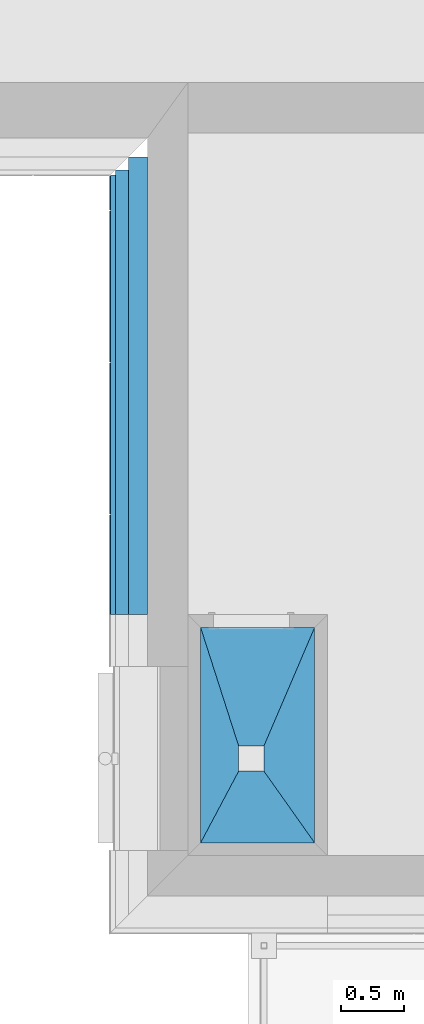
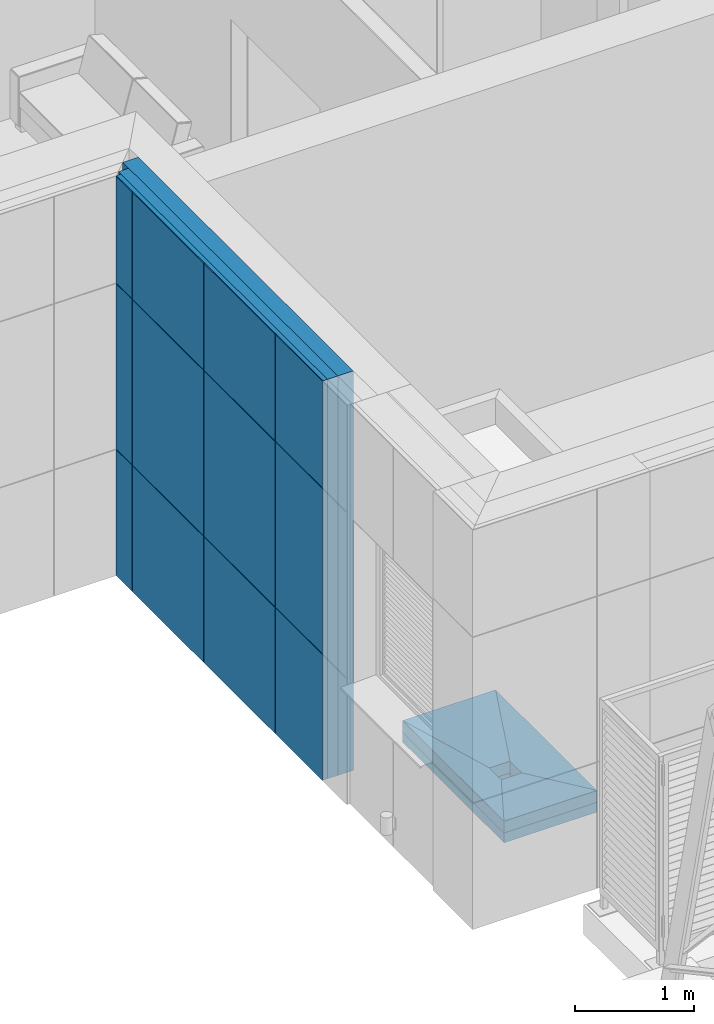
# One storey, part 113 of 418: 16 building element parts, 5 openings, 5 elements without a shape of their own.
"""IFC2X3 building model written with IfcOpenShell, lengths in millimetres."""

from ifc_helpers import new_model, entity, si_unit, converted_unit, derived_unit, money_unit, direction, frame, origin_with_axes, place, context, subcontext, project, spatial, polyline, outline, extrude, boolean, faceted_brep, material, type_object, element, aggregate, save


model = new_model("IFC2X3")

# Units and contexts
model_context = context("Model", 3, precision=0.01, world=origin_with_axes(), true_north=direction((0.0, 1.0)))
body_context = subcontext(model_context, "Body", "Model", "MODEL_VIEW")
ifc_project = project(units=[si_unit("LENGTHUNIT", "METRE", prefix="MILLI"), si_unit("AREAUNIT", "SQUARE_METRE"), si_unit("VOLUMEUNIT", "CUBIC_METRE"), converted_unit("PLANEANGLEUNIT", "DEGREE", entity("IfcPlaneAngleMeasure", 0.0174532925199), si_unit("PLANEANGLEUNIT", "RADIAN"), dimensions=[0, 0, 0, 0, 0, 0, 0]), si_unit("SOLIDANGLEUNIT", "STERADIAN"), money_unit("EUR"), converted_unit("TIMEUNIT", "Year", entity("IfcTimeMeasure", 31556926.0), si_unit("TIMEUNIT", "SECOND"), dimensions=[0, 0, 1, 0, 0, 0, 0]), si_unit("MASSUNIT", "GRAM", prefix="KILO"), si_unit("THERMODYNAMICTEMPERATUREUNIT", "DEGREE_CELSIUS"), si_unit("LUMINOUSINTENSITYUNIT", "LUMEN"), si_unit("ENERGYUNIT", "JOULE", prefix="MEGA"), derived_unit("THERMALCONDUCTANCEUNIT", [(si_unit("POWERUNIT", "WATT"), 1), (si_unit("LENGTHUNIT", "METRE"), -1), (si_unit("THERMODYNAMICTEMPERATUREUNIT", "KELVIN"), -1)]), derived_unit("SPECIFICHEATCAPACITYUNIT", [(si_unit("ENERGYUNIT", "JOULE"), 1), (si_unit("MASSUNIT", "GRAM", prefix="KILO"), -1), (si_unit("THERMODYNAMICTEMPERATUREUNIT", "KELVIN"), -1)]), derived_unit("MASSDENSITYUNIT", [(si_unit("MASSUNIT", "GRAM", prefix="KILO"), 1), (si_unit("VOLUMEUNIT", "CUBIC_METRE"), -1)])], contexts=[model_context])

# Site, building, storey
site_placement = place(None, origin_with_axes())
site = spatial("IfcSite", under=ifc_project, at=site_placement, Name="Paldiski mnt 245/1, Tallinn, Harjumaa", CompositionType="COMPLEX")
building_placement = place(site_placement, origin_with_axes())
building = spatial("IfcBuilding", under=site, at=building_placement, Name="RKAS Hoone üldnimetus (kasutust iseloomustav) -> IFC Project Manager -> SOLIBRI", CompositionType="ELEMENT")
storey_placement = place(building_placement, origin_with_axes())
storey = spatial("IfcBuildingStorey", under=building, at=storey_placement, Name="Esimene korrus", CompositionType="ELEMENT", Elevation=0.0)

# Wall, openings, building element parts
wall_type = type_object("IfcWallType", Name="VS-03D_uued_kihid 300", PredefinedType="NOTDEFINED")
wall_placement = place(storey_placement, frame((-56710.0, 2029.99992126, 0.0), z_axis=(0.0, 0.0, 1.0), x_axis=(0.0, 1.0, 0.0)))
wall = element("IfcWall", 1, at=wall_placement, inside=storey, type_object=wall_type, Name="VS-03")
opening_1_placement = place(wall_placement, frame((789.999960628, 0.0, 0.0), z_axis=(0.0, 0.0, 1.0), x_axis=(1.0, 0.0, 0.0)))
element("IfcOpeningElement", 2, at=opening_1_placement, cuts=wall, Name="Cembrit fassaadiplaadi vuuk", context=body_context, shape_type="SweptSolid", body=[
    extrude(outline(polyline([(-4.0, 0.0), (4.0, 0.0), (4.0, 4090.0), (-4.0, 4090.0), (-4.0, 0.0)])), frame((0.0, 292.0, 0.0), z_axis=(0.0, 1.0, 0.0), x_axis=(-1.0, 0.0, 0.0)), (0.0, 0.0, 1.0), 308.0),
])
opening_2_placement = place(wall_placement, frame((1989.99996063, 0.0, 0.0), z_axis=(0.0, 0.0, 1.0), x_axis=(1.0, 0.0, 0.0)))
element("IfcOpeningElement", 3, at=opening_2_placement, cuts=wall, Name="Cembrit fassaadiplaadi vuuk", context=body_context, shape_type="SweptSolid", body=[
    extrude(outline(polyline([(-4.0, 0.0), (4.0, 0.0), (4.0, 4090.0), (-4.0, 4090.0), (-4.0, 0.0)])), frame((0.0, 292.0, 0.0), z_axis=(0.0, 1.0, 0.0), x_axis=(-1.0, 0.0, 0.0)), (0.0, 0.0, 1.0), 308.0),
])
opening_3_placement = place(wall_placement, frame((3189.99996063, 0.0, 0.0), z_axis=(0.0, 0.0, 1.0), x_axis=(1.0, 0.0, 0.0)))
element("IfcOpeningElement", 4, at=opening_3_placement, cuts=wall, Name="Cembrit fassaadiplaadi vuuk", context=body_context, shape_type="SweptSolid", body=[
    extrude(outline(polyline([(-4.0, 0.0), (4.0, 0.0), (4.0, 4090.0), (-4.0, 4090.0), (-4.0, 0.0)])), frame((0.0, 292.0, 0.0), z_axis=(0.0, 1.0, 0.0), x_axis=(-1.0, 0.0, 0.0)), (0.0, 0.0, 1.0), 308.0),
])
opening_4_placement = place(wall_placement, frame((474.0000696, 0.0, 1290.0), z_axis=(0.0, 0.0, 1.0), x_axis=(1.0, 0.0, 0.0)))
element("IfcOpeningElement", 5, at=opening_4_placement, cuts=wall, Name="Cembrit fassaadiplaadi vuuk", context=body_context, shape_type="SweptSolid", body=[
    extrude(outline(polyline([(-2993.99999086, 0.0), (2993.99999086, 0.0), (2993.99999086, 8.0), (-2993.99999086, 8.0), (-2993.99999086, 0.0)])), frame((0.0, 292.0, 0.0), z_axis=(0.0, 1.0, 0.0), x_axis=(-1.0, 0.0, 0.0)), (0.0, 0.0, 1.0), 308.0),
])
opening_5_placement = place(wall_placement, frame((474.0000696, 0.0, 2990.0), z_axis=(0.0, 0.0, 1.0), x_axis=(1.0, 0.0, 0.0)))
element("IfcOpeningElement", 6, at=opening_5_placement, cuts=wall, Name="Cembrit fassaadiplaadi vuuk", context=body_context, shape_type="SweptSolid", body=[
    extrude(outline(polyline([(-2993.99999086, 0.0), (2993.99999086, 0.0), (2993.99999086, 8.0), (-2993.99999086, 8.0), (-2993.99999086, 0.0)])), frame((0.0, 292.0, 0.0), z_axis=(0.0, 1.0, 0.0), x_axis=(-1.0, 0.0, 0.0)), (0.0, 0.0, 1.0), 308.0),
])
ifc_material_1 = material(Name="Cembrit_C020")
building_element_part_1_placement = place(wall_placement, origin_with_axes())
building_element_part_1 = element("IfcBuildingElementPart", 7, at=building_element_part_1_placement, material=ifc_material_1, Name="Cembrit_C020", context=body_context, shape_type="CSG", body=[
    boolean("DIFFERENCE", boolean("DIFFERENCE", boolean("DIFFERENCE", boolean("DIFFERENCE", extrude(outline(polyline([(0.0, 292.0), (3760.00007874, 292.0), (3760.00007874, 300.0), (0.0, 300.0), (0.0, 292.0)])), origin_with_axes(), (0.0, 0.0, 1.0), 4090.0), faceted_brep([(3460.00007874, 300.0, 4090.0), (3460.00007874, 292.0, 4090.0), (3760.00007874, 292.0, 4090.0), (3760.00007874, 300.0, 4090.0), (3460.00007874, 292.0, 0.0), (3460.00007874, 300.0, 0.0), (3760.00007874, 292.0, 0.0), (3760.00007874, 300.0, 0.0)], [[[0, 1, 2, 3]], [[4, 1, 0, 5]], [[1, 4, 6, 2]], [[2, 6, 7, 3]], [[5, 0, 3, 7]], [[4, 5, 7, 6]]])), faceted_brep([(3468.00007874, 292.0, 4090.0), (3468.00007874, 250.0, 4090.0), (3760.00007874, 250.0, 4090.0), (3760.00007874, 292.0, 4090.0), (3468.00007874, 250.0, 0.0), (3468.00007874, 292.0, 0.0), (3760.00007874, 250.0, 0.0), (3760.00007874, 292.0, 0.0)], [[[0, 1, 2, 3]], [[4, 1, 0, 5]], [[1, 4, 6, 2]], [[2, 6, 7, 3]], [[5, 0, 3, 7]], [[4, 5, 7, 6]]])), faceted_brep([(3510.00007874, 250.0, 4090.0), (3510.00007874, 150.0, 4090.0), (3760.00007874, 150.0, 4090.0), (3760.00007874, 250.0, 4090.0), (3510.00007874, 150.0, 0.0), (3510.00007874, 250.0, 0.0), (3760.00007874, 150.0, 0.0), (3760.00007874, 250.0, 0.0)], [[[0, 1, 2, 3]], [[4, 1, 0, 5]], [[1, 4, 6, 2]], [[2, 6, 7, 3]], [[5, 0, 3, 7]], [[4, 5, 7, 6]]])), faceted_brep([(3610.00007874, 150.0, 4090.0), (3610.00007874, 0.0, 4090.0), (3760.00007874, 0.0, 4090.0), (3760.00007874, 150.0, 4090.0), (3610.00007874, 0.0, 0.0), (3610.00007874, 150.0, 0.0), (3760.00007874, 0.0, 0.0), (3760.00007874, 150.0, 0.0)], [[[0, 1, 2, 3]], [[4, 1, 0, 5]], [[1, 4, 6, 2]], [[2, 6, 7, 3]], [[5, 0, 3, 7]], [[4, 5, 7, 6]]])),
])
ifc_material_2 = material(Name="VKR-06_Õhkvahe")
building_element_part_2_placement = place(wall_placement, origin_with_axes())
building_element_part_2 = element("IfcBuildingElementPart", 8, at=building_element_part_2_placement, material=ifc_material_2, Name="VKR-06_Õhkvahe", context=body_context, shape_type="CSG", body=[
    boolean("DIFFERENCE", boolean("DIFFERENCE", boolean("DIFFERENCE", boolean("DIFFERENCE", extrude(outline(polyline([(0.0, 250.0), (3760.00007874, 250.0), (3760.00007874, 292.0), (0.0, 292.0), (0.0, 250.0)])), origin_with_axes(), (0.0, 0.0, 1.0), 4090.0), faceted_brep([(3460.00007874, 300.0, 4090.0), (3460.00007874, 292.0, 4090.0), (3760.00007874, 292.0, 4090.0), (3760.00007874, 300.0, 4090.0), (3460.00007874, 292.0, 0.0), (3460.00007874, 300.0, 0.0), (3760.00007874, 292.0, 0.0), (3760.00007874, 300.0, 0.0)], [[[0, 1, 2, 3]], [[4, 1, 0, 5]], [[1, 4, 6, 2]], [[2, 6, 7, 3]], [[5, 0, 3, 7]], [[4, 5, 7, 6]]])), faceted_brep([(3468.00007874, 292.0, 4090.0), (3468.00007874, 250.0, 4090.0), (3760.00007874, 250.0, 4090.0), (3760.00007874, 292.0, 4090.0), (3468.00007874, 250.0, 0.0), (3468.00007874, 292.0, 0.0), (3760.00007874, 250.0, 0.0), (3760.00007874, 292.0, 0.0)], [[[0, 1, 2, 3]], [[4, 1, 0, 5]], [[1, 4, 6, 2]], [[2, 6, 7, 3]], [[5, 0, 3, 7]], [[4, 5, 7, 6]]])), faceted_brep([(3510.00007874, 250.0, 4090.0), (3510.00007874, 150.0, 4090.0), (3760.00007874, 150.0, 4090.0), (3760.00007874, 250.0, 4090.0), (3510.00007874, 150.0, 0.0), (3510.00007874, 250.0, 0.0), (3760.00007874, 150.0, 0.0), (3760.00007874, 250.0, 0.0)], [[[0, 1, 2, 3]], [[4, 1, 0, 5]], [[1, 4, 6, 2]], [[2, 6, 7, 3]], [[5, 0, 3, 7]], [[4, 5, 7, 6]]])), faceted_brep([(3610.00007874, 150.0, 4090.0), (3610.00007874, 0.0, 4090.0), (3760.00007874, 0.0, 4090.0), (3760.00007874, 150.0, 4090.0), (3610.00007874, 0.0, 0.0), (3610.00007874, 150.0, 0.0), (3760.00007874, 0.0, 0.0), (3760.00007874, 150.0, 0.0)], [[[0, 1, 2, 3]], [[4, 1, 0, 5]], [[1, 4, 6, 2]], [[2, 6, 7, 3]], [[5, 0, 3, 7]], [[4, 5, 7, 6]]])),
])
ifc_material_3 = material(Name="Kingspan Kooltherm")
building_element_part_3_placement = place(wall_placement, origin_with_axes())
building_element_part_3 = element("IfcBuildingElementPart", 9, at=building_element_part_3_placement, material=ifc_material_3, Name="Kingspan Kooltherm", context=body_context, shape_type="CSG", body=[
    boolean("DIFFERENCE", boolean("DIFFERENCE", boolean("DIFFERENCE", boolean("DIFFERENCE", extrude(outline(polyline([(0.0, 150.0), (3760.00007874, 150.0), (3760.00007874, 250.0), (0.0, 250.0), (0.0, 150.0)])), origin_with_axes(), (0.0, 0.0, 1.0), 4090.0), faceted_brep([(3460.00007874, 300.0, 4090.0), (3460.00007874, 292.0, 4090.0), (3760.00007874, 292.0, 4090.0), (3760.00007874, 300.0, 4090.0), (3460.00007874, 292.0, 0.0), (3460.00007874, 300.0, 0.0), (3760.00007874, 292.0, 0.0), (3760.00007874, 300.0, 0.0)], [[[0, 1, 2, 3]], [[4, 1, 0, 5]], [[1, 4, 6, 2]], [[2, 6, 7, 3]], [[5, 0, 3, 7]], [[4, 5, 7, 6]]])), faceted_brep([(3468.00007874, 292.0, 4090.0), (3468.00007874, 250.0, 4090.0), (3760.00007874, 250.0, 4090.0), (3760.00007874, 292.0, 4090.0), (3468.00007874, 250.0, 0.0), (3468.00007874, 292.0, 0.0), (3760.00007874, 250.0, 0.0), (3760.00007874, 292.0, 0.0)], [[[0, 1, 2, 3]], [[4, 1, 0, 5]], [[1, 4, 6, 2]], [[2, 6, 7, 3]], [[5, 0, 3, 7]], [[4, 5, 7, 6]]])), faceted_brep([(3510.00007874, 250.0, 4090.0), (3510.00007874, 150.0, 4090.0), (3760.00007874, 150.0, 4090.0), (3760.00007874, 250.0, 4090.0), (3510.00007874, 150.0, 0.0), (3510.00007874, 250.0, 0.0), (3760.00007874, 150.0, 0.0), (3760.00007874, 250.0, 0.0)], [[[0, 1, 2, 3]], [[4, 1, 0, 5]], [[1, 4, 6, 2]], [[2, 6, 7, 3]], [[5, 0, 3, 7]], [[4, 5, 7, 6]]])), faceted_brep([(3610.00007874, 150.0, 4090.0), (3610.00007874, 0.0, 4090.0), (3760.00007874, 0.0, 4090.0), (3760.00007874, 150.0, 4090.0), (3610.00007874, 0.0, 0.0), (3610.00007874, 150.0, 0.0), (3760.00007874, 0.0, 0.0), (3760.00007874, 150.0, 0.0)], [[[0, 1, 2, 3]], [[4, 1, 0, 5]], [[1, 4, 6, 2]], [[2, 6, 7, 3]], [[5, 0, 3, 7]], [[4, 5, 7, 6]]])),
])
building_element_part_4_placement = place(wall_placement, origin_with_axes())
building_element_part_4 = element("IfcBuildingElementPart", 10, at=building_element_part_4_placement, material=ifc_material_3, Name="Kingspan Kooltherm", context=body_context, shape_type="CSG", body=[
    boolean("DIFFERENCE", boolean("DIFFERENCE", boolean("DIFFERENCE", boolean("DIFFERENCE", extrude(outline(polyline([(0.0, 0.0), (3760.00007874, 0.0), (3760.00007874, 150.0), (0.0, 150.0), (0.0, 0.0)])), origin_with_axes(), (0.0, 0.0, 1.0), 4090.0), faceted_brep([(3460.00007874, 300.0, 4090.0), (3460.00007874, 292.0, 4090.0), (3760.00007874, 292.0, 4090.0), (3760.00007874, 300.0, 4090.0), (3460.00007874, 292.0, 0.0), (3460.00007874, 300.0, 0.0), (3760.00007874, 292.0, 0.0), (3760.00007874, 300.0, 0.0)], [[[0, 1, 2, 3]], [[4, 1, 0, 5]], [[1, 4, 6, 2]], [[2, 6, 7, 3]], [[5, 0, 3, 7]], [[4, 5, 7, 6]]])), faceted_brep([(3468.00007874, 292.0, 4090.0), (3468.00007874, 250.0, 4090.0), (3760.00007874, 250.0, 4090.0), (3760.00007874, 292.0, 4090.0), (3468.00007874, 250.0, 0.0), (3468.00007874, 292.0, 0.0), (3760.00007874, 250.0, 0.0), (3760.00007874, 292.0, 0.0)], [[[0, 1, 2, 3]], [[4, 1, 0, 5]], [[1, 4, 6, 2]], [[2, 6, 7, 3]], [[5, 0, 3, 7]], [[4, 5, 7, 6]]])), faceted_brep([(3510.00007874, 250.0, 4090.0), (3510.00007874, 150.0, 4090.0), (3760.00007874, 150.0, 4090.0), (3760.00007874, 250.0, 4090.0), (3510.00007874, 150.0, 0.0), (3510.00007874, 250.0, 0.0), (3760.00007874, 150.0, 0.0), (3760.00007874, 250.0, 0.0)], [[[0, 1, 2, 3]], [[4, 1, 0, 5]], [[1, 4, 6, 2]], [[2, 6, 7, 3]], [[5, 0, 3, 7]], [[4, 5, 7, 6]]])), faceted_brep([(3610.00007874, 150.0, 4090.0), (3610.00007874, 0.0, 4090.0), (3760.00007874, 0.0, 4090.0), (3760.00007874, 150.0, 4090.0), (3610.00007874, 0.0, 0.0), (3610.00007874, 150.0, 0.0), (3760.00007874, 0.0, 0.0), (3760.00007874, 150.0, 0.0)], [[[0, 1, 2, 3]], [[4, 1, 0, 5]], [[1, 4, 6, 2]], [[2, 6, 7, 3]], [[5, 0, 3, 7]], [[4, 5, 7, 6]]])),
])
aggregate(wall, [building_element_part_1, building_element_part_2, building_element_part_3, building_element_part_4])

# Proxy, building element parts
building_element_proxy_type = type_object("IfcBuildingElementProxyType", Name="AP-02 pealiskihid 222", PredefinedType="NOTDEFINED")
proxy_1_placement = place(storey_placement, frame((-55989.9999767, 794.999993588, 176.926406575), z_axis=(0.0, 0.0, 1.0), x_axis=(0.0, 1.0, 0.0)))
proxy_1 = element("IfcBuildingElementProxy", 11, at=proxy_1_placement, inside=storey, type_object=building_element_proxy_type, Name="AP-02")
ifc_material_4 = material(Name="Kaldu lõigatud soojustus, EPS60 Silver")
building_element_part_5_placement = place(proxy_1_placement, origin_with_axes())
building_element_part_5 = element("IfcBuildingElementPart", 12, at=building_element_part_5_placement, material=ifc_material_4, Name="Kaldu lõigatud soojustus, EPS60 Silver", context=body_context, shape_type="CSG", body=[
    boolean("DIFFERENCE", extrude(outline(polyline([(200.0, 0.0), (1134.99992767, 300.909156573), (-564.999993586, 300.909156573), (0.0, 0.0), (200.0, 0.0)])), frame((0.0, 0.0, 0.0), z_axis=(0.0, -0.0776752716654, 0.996978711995), x_axis=(1.0, 0.0, 0.0)), (0.0, 0.0776752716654, 0.996978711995), 100.303044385), faceted_brep([(1134.99992767, 300.000023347, 24.0735934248), (200.000000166, 4.56523707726e-08, 24.0735934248), (200.0, 0.0, 0.0), (1134.99992767, 300.000023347, 23.3732004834), (-8.14326384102e-09, 4.56523707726e-08, 24.0735934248), (-564.999993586, 300.000023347, 24.0735934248), (0.0, 0.0, 0.0), (-564.999993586, 300.000023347, 23.3732004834)], [[[0, 1, 2, 3]], [[4, 1, 0, 5]], [[1, 4, 6, 2]], [[3, 2, 6, 7]], [[5, 0, 3, 7]], [[4, 5, 7, 6]]])),
])
ifc_material_5 = material(Name="Põhisoojustus, Eurothane Silver E 120 mm")
building_element_part_6_placement = place(proxy_1_placement, origin_with_axes())
building_element_part_6 = element("IfcBuildingElementPart", 13, at=building_element_part_6_placement, material=ifc_material_5, Name="Põhisoojustus, Eurothane Silver E 120 mm", context=body_context, shape_type="CSG", body=[
    boolean("DIFFERENCE", extrude(outline(polyline([(200.0, 0.0), (1134.99992767, 300.909156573), (-564.999993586, 300.909156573), (0.0, 0.0), (200.0, 0.0)])), frame((0.0, 0.0, 100.303044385), z_axis=(0.0, -0.0776752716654, 0.996978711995), x_axis=(1.0, 0.0, 0.0)), (0.0, 0.0776752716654, 0.996978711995), 120.363653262), faceted_brep([(1134.99992767, 300.000023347, 24.0735934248), (200.000000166, 4.56523707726e-08, 24.0735934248), (200.0, 0.0, 0.0), (1134.99992767, 300.000023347, 23.3732004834), (-8.14326384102e-09, 4.56523707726e-08, 24.0735934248), (-564.999993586, 300.000023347, 24.0735934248), (0.0, 0.0, 0.0), (-564.999993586, 300.000023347, 23.3732004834)], [[[0, 1, 2, 3]], [[4, 1, 0, 5]], [[1, 4, 6, 2]], [[3, 2, 6, 7]], [[5, 0, 3, 7]], [[4, 5, 7, 6]]])),
])
ifc_material_6 = material(Name="Katusekate PVC 1,6 mm, PROTAN SE")
building_element_part_7_placement = place(proxy_1_placement, origin_with_axes())
building_element_part_7 = element("IfcBuildingElementPart", 14, at=building_element_part_7_placement, material=ifc_material_6, Name="Katusekate PVC 1,6 mm, PROTAN SE", context=body_context, shape_type="CSG", body=[
    boolean("DIFFERENCE", extrude(outline(polyline([(200.0, 0.0), (1134.99992767, 300.909156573), (-564.999993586, 300.909156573), (0.0, 0.0), (200.0, 0.0)])), frame((0.0, 0.0, 220.666697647), z_axis=(0.0, -0.0776752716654, 0.996978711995), x_axis=(1.0, 0.0, 0.0)), (0.0, 0.0776752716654, 0.996978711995), 2.0060608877), faceted_brep([(1134.99992767, 300.000023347, 24.0735934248), (200.000000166, 4.56523707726e-08, 24.0735934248), (200.0, 0.0, 0.0), (1134.99992767, 300.000023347, 23.3732004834), (-8.14326384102e-09, 4.56523707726e-08, 24.0735934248), (-564.999993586, 300.000023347, 24.0735934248), (0.0, 0.0, 0.0), (-564.999993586, 300.000023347, 23.3732004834)], [[[0, 1, 2, 3]], [[4, 1, 0, 5]], [[1, 4, 6, 2]], [[3, 2, 6, 7]], [[5, 0, 3, 7]], [[4, 5, 7, 6]]])),
])
aggregate(proxy_1, [building_element_part_5, building_element_part_6, building_element_part_7])

proxy_2_placement = place(storey_placement, frame((-55789.9999767, 994.999993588, 177.352957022), z_axis=(0.0, 0.0, 1.0), x_axis=(0.0, -1.0, 0.0)))
proxy_2 = element("IfcBuildingElementProxy", 15, at=proxy_2_placement, inside=storey, type_object=building_element_proxy_type, Name="AP-02")
building_element_part_8_placement = place(proxy_2_placement, origin_with_axes())
building_element_part_8 = element("IfcBuildingElementPart", 16, at=building_element_part_8_placement, material=ifc_material_4, Name="Kaldu lõigatud soojustus, EPS60 Silver", context=body_context, shape_type="CSG", body=[
    boolean("DIFFERENCE", extrude(outline(polyline([(200.0, 0.0), (764.999993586, 400.682301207), (-934.999927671, 400.682301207), (0.0, 0.0), (200.0, 0.0)])), frame((0.0, 0.0, 0.0), z_axis=(0.0, -0.0583334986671, 0.99829715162), x_axis=(1.0, 0.0, 0.0)), (0.0, 0.0583334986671, 0.99829715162), 100.170575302), faceted_brep([(-8.9313001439e-08, 2.99820612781e-07, 23.6470429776), (-934.999927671, 400.0, 23.6470429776), (-934.999927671, 400.0, 23.3732004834), (0.0, 0.0, 0.0), (764.999993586, 400.0, 23.6470429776), (200.000000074, 2.99820612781e-07, 23.6470429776), (764.999993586, 400.0, 23.3732004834), (200.0, 0.0, 0.0)], [[[0, 1, 2, 3]], [[4, 1, 0, 5]], [[1, 4, 6, 2]], [[6, 7, 3, 2]], [[5, 0, 3, 7]], [[4, 5, 7, 6]]])),
])
building_element_part_9_placement = place(proxy_2_placement, origin_with_axes())
building_element_part_9 = element("IfcBuildingElementPart", 17, at=building_element_part_9_placement, material=ifc_material_5, Name="Põhisoojustus, Eurothane Silver E 120 mm", context=body_context, shape_type="CSG", body=[
    boolean("DIFFERENCE", extrude(outline(polyline([(200.0, 0.0), (764.999993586, 400.682301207), (-934.999927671, 400.682301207), (0.0, 0.0), (200.0, 0.0)])), frame((0.0, 0.0, 100.170575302), z_axis=(0.0, -0.0583334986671, 0.99829715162), x_axis=(1.0, 0.0, 0.0)), (0.0, 0.0583334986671, 0.99829715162), 120.204690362), faceted_brep([(-8.9313001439e-08, 2.99820612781e-07, 23.6470429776), (-934.999927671, 400.0, 23.6470429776), (-934.999927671, 400.0, 23.3732004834), (0.0, 0.0, 0.0), (764.999993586, 400.0, 23.6470429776), (200.000000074, 2.99820612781e-07, 23.6470429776), (764.999993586, 400.0, 23.3732004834), (200.0, 0.0, 0.0)], [[[0, 1, 2, 3]], [[4, 1, 0, 5]], [[1, 4, 6, 2]], [[6, 7, 3, 2]], [[5, 0, 3, 7]], [[4, 5, 7, 6]]])),
])
building_element_part_10_placement = place(proxy_2_placement, origin_with_axes())
building_element_part_10 = element("IfcBuildingElementPart", 18, at=building_element_part_10_placement, material=ifc_material_6, Name="Katusekate PVC 1,6 mm, PROTAN SE", context=body_context, shape_type="CSG", body=[
    boolean("DIFFERENCE", extrude(outline(polyline([(200.0, 0.0), (764.999993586, 400.682301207), (-934.999927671, 400.682301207), (0.0, 0.0), (200.0, 0.0)])), frame((0.0, 0.0, 220.375265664), z_axis=(0.0, -0.0583334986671, 0.99829715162), x_axis=(1.0, 0.0, 0.0)), (0.0, 0.0583334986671, 0.99829715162), 2.00341150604), faceted_brep([(-8.9313001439e-08, 2.99820612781e-07, 23.6470429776), (-934.999927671, 400.0, 23.6470429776), (-934.999927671, 400.0, 23.3732004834), (0.0, 0.0, 0.0), (764.999993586, 400.0, 23.6470429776), (200.000000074, 2.99820612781e-07, 23.6470429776), (764.999993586, 400.0, 23.3732004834), (200.0, 0.0, 0.0)], [[[0, 1, 2, 3]], [[4, 1, 0, 5]], [[1, 4, 6, 2]], [[6, 7, 3, 2]], [[5, 0, 3, 7]], [[4, 5, 7, 6]]])),
])
aggregate(proxy_2, [building_element_part_8, building_element_part_9, building_element_part_10])

proxy_3_placement = place(storey_placement, frame((-55789.9999767, 794.999993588, 177.626799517), z_axis=(0.0, 0.0, 1.0), x_axis=(-1.0, 0.0, 0.0)))
proxy_3 = element("IfcBuildingElementProxy", 19, at=proxy_3_placement, inside=storey, type_object=building_element_proxy_type, Name="AP-02")
building_element_part_11_placement = place(proxy_3_placement, origin_with_axes())
building_element_part_11 = element("IfcBuildingElementPart", 20, at=building_element_part_11_placement, material=ifc_material_4, Name="Kaldu lõigatud soojustus, EPS60 Silver", context=body_context, shape_type="CSG", body=[
    boolean("DIFFERENCE", extrude(outline(polyline([(200.0, 0.0), (500.000023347, 565.483244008), (-400.0, 565.483244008), (0.0, 0.0), (200.0, 0.0)])), frame((0.0, 0.0, 0.0), z_axis=(0.0, -0.0413331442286, 0.999145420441), x_axis=(1.0, 0.0, 0.0)), (0.0, 0.0413331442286, 0.999145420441), 100.085531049), faceted_brep([(4.0864733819e-07, 2.33791208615e-07, 23.3732004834), (-400.0, 564.999993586, 23.3732004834), (0.0, 0.0, 0.0), (500.000023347, 564.999993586, 23.3732004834), (199.999999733, 2.33791208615e-07, 23.3732004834), (200.0, 0.0, 0.0)], [[[0, 1, 2]], [[3, 1, 0, 4]], [[1, 3, 5, 2]], [[4, 0, 2, 5]], [[3, 4, 5]]])),
])
building_element_part_12_placement = place(proxy_3_placement, origin_with_axes())
building_element_part_12 = element("IfcBuildingElementPart", 21, at=building_element_part_12_placement, material=ifc_material_5, Name="Põhisoojustus, Eurothane Silver E 120 mm", context=body_context, shape_type="CSG", body=[
    boolean("DIFFERENCE", extrude(outline(polyline([(200.0, 0.0), (500.000023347, 565.483244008), (-400.0, 565.483244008), (0.0, 0.0), (200.0, 0.0)])), frame((0.0, 0.0, 100.085531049), z_axis=(0.0, -0.0413331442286, 0.999145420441), x_axis=(1.0, 0.0, 0.0)), (0.0, 0.0413331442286, 0.999145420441), 120.102637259), faceted_brep([(4.0864733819e-07, 2.33791208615e-07, 23.3732004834), (-400.0, 564.999993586, 23.3732004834), (0.0, 0.0, 0.0), (500.000023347, 564.999993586, 23.3732004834), (199.999999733, 2.33791208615e-07, 23.3732004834), (200.0, 0.0, 0.0)], [[[0, 1, 2]], [[3, 1, 0, 4]], [[1, 3, 5, 2]], [[4, 0, 2, 5]], [[3, 4, 5]]])),
])
building_element_part_13_placement = place(proxy_3_placement, origin_with_axes())
building_element_part_13 = element("IfcBuildingElementPart", 22, at=building_element_part_13_placement, material=ifc_material_6, Name="Katusekate PVC 1,6 mm, PROTAN SE", context=body_context, shape_type="CSG", body=[
    boolean("DIFFERENCE", extrude(outline(polyline([(200.0, 0.0), (500.000023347, 565.483244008), (-400.0, 565.483244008), (0.0, 0.0), (200.0, 0.0)])), frame((0.0, 0.0, 220.188168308), z_axis=(0.0, -0.0413331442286, 0.999145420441), x_axis=(1.0, 0.0, 0.0)), (0.0, 0.0413331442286, 0.999145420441), 2.00171062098), faceted_brep([(4.0864733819e-07, 2.33791208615e-07, 23.3732004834), (-400.0, 564.999993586, 23.3732004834), (0.0, 0.0, 0.0), (500.000023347, 564.999993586, 23.3732004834), (199.999999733, 2.33791208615e-07, 23.3732004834), (200.0, 0.0, 0.0)], [[[0, 1, 2]], [[3, 1, 0, 4]], [[1, 3, 5, 2]], [[4, 0, 2, 5]], [[3, 4, 5]]])),
])
aggregate(proxy_3, [building_element_part_11, building_element_part_12, building_element_part_13])

proxy_4_placement = place(storey_placement, frame((-55989.9999767, 995.071901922, 177.801600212), z_axis=(0.0, 0.0, 1.0), x_axis=(1.0, 0.0, 0.0)))
proxy_4 = element("IfcBuildingElementProxy", 23, at=proxy_4_placement, inside=storey, type_object=building_element_proxy_type, Name="AP-02")
building_element_part_14_placement = place(proxy_4_placement, origin_with_axes())
building_element_part_14 = element("IfcBuildingElementPart", 24, at=building_element_part_14_placement, material=ifc_material_4, Name="Kaldu lõigatud soojustus, EPS60 Silver", context=body_context, shape_type="CSG", body=[
    boolean("DIFFERENCE", extrude(outline(polyline([(200.0, 0.0), (600.0, 935.220138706), (-300.000023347, 935.220138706), (0.0, 0.0), (200.0, 0.0)])), frame((0.0, 0.0, 0.0), z_axis=(0.0, -0.0249921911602, 0.999687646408), x_axis=(1.0, 0.0, 0.0)), (0.0, 0.0249921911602, 0.999687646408), 100.031245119), faceted_brep([(-297.756419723, 927.9359942, 23.1983997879), (597.008529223, 927.9359942, 23.1983997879), (200.0, 0.0, 0.0), (0.0, 0.0, 0.0), (200.000000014, -5.68745051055e-09, 23.1983997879), (-1.53391965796e-07, -5.68745051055e-09, 23.1983997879)], [[[0, 1, 2, 3]], [[4, 1, 0, 5]], [[1, 4, 2]], [[4, 5, 3, 2]], [[5, 0, 3]]])),
])
building_element_part_15_placement = place(proxy_4_placement, origin_with_axes())
building_element_part_15 = element("IfcBuildingElementPart", 25, at=building_element_part_15_placement, material=ifc_material_5, Name="Põhisoojustus, Eurothane Silver E 120 mm", context=body_context, shape_type="CSG", body=[
    boolean("DIFFERENCE", extrude(outline(polyline([(200.0, 0.0), (600.0, 935.220138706), (-300.000023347, 935.220138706), (0.0, 0.0), (200.0, 0.0)])), frame((0.0, 0.0, 100.031245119), z_axis=(0.0, -0.0249921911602, 0.999687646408), x_axis=(1.0, 0.0, 0.0)), (0.0, 0.0249921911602, 0.999687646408), 120.037494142), faceted_brep([(-297.756419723, 927.9359942, 23.1983997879), (597.008529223, 927.9359942, 23.1983997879), (200.0, 0.0, 0.0), (0.0, 0.0, 0.0), (200.000000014, -5.68745051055e-09, 23.1983997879), (-1.53391965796e-07, -5.68745051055e-09, 23.1983997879)], [[[0, 1, 2, 3]], [[4, 1, 0, 5]], [[1, 4, 2]], [[4, 5, 3, 2]], [[5, 0, 3]]])),
])
building_element_part_16_placement = place(proxy_4_placement, origin_with_axes())
building_element_part_16 = element("IfcBuildingElementPart", 26, at=building_element_part_16_placement, material=ifc_material_6, Name="Katusekate PVC 1,6 mm, PROTAN SE", context=body_context, shape_type="CSG", body=[
    boolean("DIFFERENCE", extrude(outline(polyline([(200.0, 0.0), (600.0, 935.220138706), (-300.000023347, 935.220138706), (0.0, 0.0), (200.0, 0.0)])), frame((0.0, 0.0, 220.068739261), z_axis=(0.0, -0.0249921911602, 0.999687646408), x_axis=(1.0, 0.0, 0.0)), (0.0, 0.0249921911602, 0.999687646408), 2.00062490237), faceted_brep([(-297.756419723, 927.9359942, 23.1983997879), (597.008529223, 927.9359942, 23.1983997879), (200.0, 0.0, 0.0), (0.0, 0.0, 0.0), (200.000000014, -5.68745051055e-09, 23.1983997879), (-1.53391965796e-07, -5.68745051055e-09, 23.1983997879)], [[[0, 1, 2, 3]], [[4, 1, 0, 5]], [[1, 4, 2]], [[4, 5, 3, 2]], [[5, 0, 3]]])),
])
aggregate(proxy_4, [building_element_part_14, building_element_part_15, building_element_part_16])

save(model, "model.ifc")
